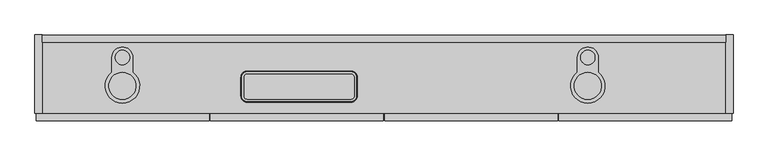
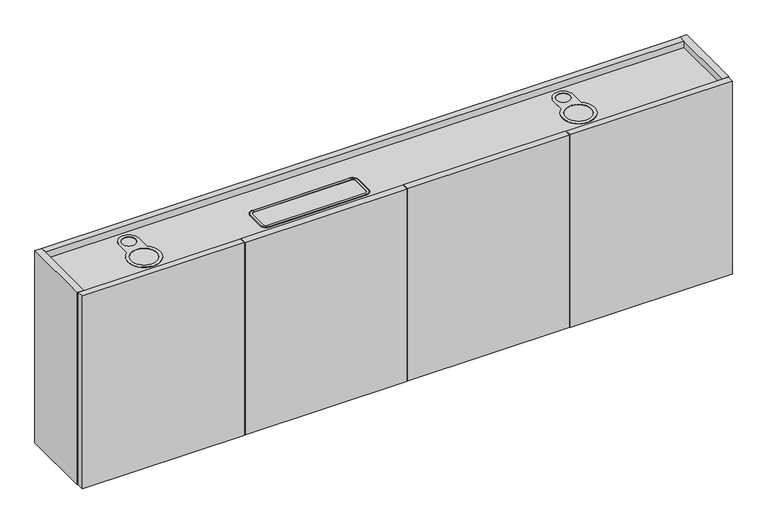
"""IFC4 building model written with IfcOpenShell, lengths in millimetres: furniture geometry, Geiger_GeigerOneCasegoods_UtilityCabinetForUseWithLDeskAccepts2Legs : Vertical Veneer 72Wx 8.875Dx 22.5H."""

from ifc_helpers import new_model, si_unit, point, frame, origin, place, context, project, spatial, polyline, circle_curve, ellipse_curve, trimmed, outline, extrude, faceted_brep, source, transform, mapped, element, save
from ifc_brep_helpers import plane_surface, cylinder_surface, revolved_surface, advanced_brep


def furniture_2dc1d840(model_context):
    return source(origin(), model_context, "Body", "SolidModel", [
        faceted_brep([(1809.8, -19.5, 584.2), (1809.8, -19.5, 29.0), (1809.8, -0.5, 29.0), (1809.8, -0.5, 584.2), (1809.8, -204.925, 156.0), (1809.8, -204.925, 29.0), (1809.8, -185.925, 29.0), (1809.8, -185.925, 156.0), (19.0, -19.5, 584.2), (19.0, -0.5, 584.2), (19.0, -0.5, 29.0), (19.0, -19.5, 29.0), (19.0, -204.925, 156.0), (19.0, -185.925, 156.0), (19.0, -185.925, 29.0), (19.0, -204.925, 29.0), (980.7658, -19.5, 29.0), (980.7658, -19.5, 546.2), (999.7658, -19.5, 546.2), (999.7658, -19.5, 29.0), (980.7658, -185.925, 29.0), (980.7658, -204.5, 29.0), (999.7658, -204.5, 29.0), (999.7658, -185.925, 29.0), (999.7658, -185.925, 156.0), (980.7658, -185.925, 156.0), (999.7658, -204.5, 156.0), (980.7658, -204.5, 156.0), (980.7658, -204.5, 546.2), (980.7658, -19.5, 12.7), (980.7658, -204.5, 12.7), (999.7658, -204.5, 12.7), (999.7658, -19.5, 12.7), (999.7658, -204.5, 546.2)], [[[0, 1, 2, 3]], [[4, 5, 6, 7]], [[8, 9, 10, 11]], [[12, 13, 14, 15]], [[1, 0, 8, 11, 16, 17, 18, 19]], [[2, 1, 19, 16, 11, 10]], [[3, 2, 10, 9]], [[0, 3, 9, 8]], [[5, 4, 12, 15]], [[6, 5, 15, 14, 20, 21, 22, 23]], [[7, 6, 23, 24]], [[14, 13, 25, 20]], [[4, 7, 24, 26, 27, 25, 13, 12]], [[28, 17, 16, 29, 30, 21, 20, 25, 27]], [[31, 32, 19, 18, 33, 26, 24, 23, 22]], [[30, 31, 22, 21]], [[33, 28, 27, 26]], [[17, 28, 33, 18]], [[32, 29, 16, 19]], [[30, 29, 32, 31]]]),
        extrude(outline(polyline([(1809.8, -19.5), (1809.8, -205.425), (19.0, -205.425), (19.0, -19.5), (1809.8, -19.5)])), frame((0.0, 0.0, 546.2), z_axis=(0.0, 0.0, 1.0), x_axis=(1.0, 0.0, 0.0)), (0.0, 0.0, 1.0), 19.0),
        extrude(outline(polyline([(456.7, -225.425), (3.0, -225.425), (3.0, -206.425), (456.7, -206.425), (456.7, -225.425)])), frame((0.0, 0.0, 12.7), z_axis=(0.0, 0.0, 1.0), x_axis=(1.0, 0.0, 0.0)), (0.0, 0.0, 1.0), 571.5),
        extrude(outline(polyline([(1825.8, -225.425), (1372.1, -225.425), (1372.1, -206.425), (1825.8, -206.425), (1825.8, -225.425)])), frame((0.0, 0.0, 12.7), z_axis=(0.0, 0.0, 1.0), x_axis=(1.0, 0.0, 0.0)), (0.0, 0.0, 1.0), 571.5),
        extrude(outline(polyline([(912.9, -225.425), (459.7, -225.425), (459.7, -206.425), (912.9, -206.425), (912.9, -225.425)])), frame((0.0, 0.0, 12.7), z_axis=(0.0, 0.0, 1.0), x_axis=(1.0, 0.0, 0.0)), (0.0, 0.0, 1.0), 571.5),
        extrude(outline(polyline([(1369.1, -225.425), (915.9, -225.425), (915.9, -206.425), (1369.1, -206.425), (1369.1, -225.425)])), frame((0.0, 0.0, 12.7), z_axis=(0.0, 0.0, 1.0), x_axis=(1.0, 0.0, 0.0)), (0.0, 0.0, 1.0), 571.5),
        extrude(outline(polyline([(19.0, -205.425), (0.0, -205.425), (0.0, 0.0), (19.0, 0.0), (19.0, -205.425)])), frame((0.0, 0.0, 12.7), z_axis=(0.0, 0.0, 1.0), x_axis=(1.0, 0.0, 0.0)), (0.0, 0.0, 1.0), 571.5),
        extrude(outline(polyline([(1828.8, -205.425), (1809.8, -205.425), (1809.8, 0.0), (1828.8, 0.0), (1828.8, -205.425)])), frame((0.0, 0.0, 12.7), z_axis=(0.0, 0.0, 1.0), x_axis=(1.0, 0.0, 0.0)), (0.0, 0.0, 1.0), 571.5),
        advanced_brep(
        [(540.6933563, -110.825, 566.7), (555.873, -95.6453563, 566.7), (555.873, -94.4172964, 565.2), (539.4652964, -110.825, 565.2), (539.4652964, -160.025, 565.2), (540.6933563, -160.025, 566.7), (555.873, -176.4327036, 565.2), (555.873, -175.2046437, 566.7), (828.073, -176.4327036, 565.2), (828.073, -175.2046437, 566.7), (844.4807036, -160.025, 565.2), (843.2526437, -160.025, 566.7), (844.4807036, -110.825, 565.2), (843.2526437, -110.825, 566.7), (828.073, -94.4172964, 565.2), (828.073, -95.6453563, 566.7), (555.873, -102.925, 566.7), (828.073, -102.925, 566.7), (835.973, -110.825, 566.7), (835.973, -160.025, 566.7), (828.073, -167.925, 566.7), (555.873, -167.925, 566.7), (547.973, -160.025, 566.7), (547.973, -110.825, 566.7), (547.973, -110.825, 566.001635), (555.873, -102.925, 566.001635), (547.973, -160.025, 566.001635), (555.873, -167.925, 566.001635), (828.073, -167.925, 566.001635), (835.973, -160.025, 566.001635), (835.973, -110.825, 566.001635), (828.073, -102.925, 566.001635)],
        [
            (0, 1, circle_curve(frame((555.873, -110.825, 566.7), z_axis=(0.0, 0.0, -1.0), x_axis=(0.0, 1.0, 0.0)), 15.1796437)),
            (1, 2, circle_curve(frame((555.873, -95.6453563, 565.4472896), z_axis=(-1.0, 0.0, 0.0), x_axis=(0.0, -1.0, 0.0)), 1.2527104)),
            (2, 3, circle_curve(frame((555.873, -110.825, 565.2), z_axis=(0.0, 0.0, 1.0), x_axis=(0.0, 1.0, 0.0)), 16.4077036)),
            (3, 0, circle_curve(frame((540.6933563, -110.825, 565.4472896), z_axis=(0.0, 1.0, 0.0), x_axis=(1.0, 0.0, 0.0)), 1.2527104)),
            (3, 4),
            (4, 5, circle_curve(frame((540.6933563, -160.025, 565.4472896), z_axis=(0.0, 1.0, 0.0), x_axis=(1.0, 0.0, 0.0)), 1.2527104)),
            (5, 0),
            (4, 6, circle_curve(frame((555.873, -160.025, 565.2), z_axis=(0.0, 0.0, 1.0), x_axis=(-1.0, 0.0, 0.0)), 16.4077036)),
            (6, 7, circle_curve(frame((555.873, -175.2046437, 565.4472896), z_axis=(-1.0, 0.0, 0.0), x_axis=(0.0, 1.0, 0.0)), 1.2527104)),
            (7, 5, circle_curve(frame((555.873, -160.025, 566.7), z_axis=(0.0, 0.0, -1.0), x_axis=(-1.0, 0.0, 0.0)), 15.1796437)),
            (6, 8),
            (8, 9, circle_curve(frame((828.073, -175.2046437, 565.4472896), z_axis=(-1.0, 0.0, 0.0), x_axis=(0.0, 1.0, 0.0)), 1.2527104)),
            (9, 7),
            (8, 10, circle_curve(frame((828.073, -160.025, 565.2), z_axis=(0.0, 0.0, 1.0), x_axis=(0.0, -1.0, 0.0)), 16.4077036)),
            (10, 11, circle_curve(frame((843.2526437, -160.025, 565.4472896), z_axis=(0.0, -1.0, 0.0), x_axis=(-1.0, 0.0, 0.0)), 1.2527104)),
            (11, 9, circle_curve(frame((828.073, -160.025, 566.7), z_axis=(0.0, 0.0, -1.0), x_axis=(0.0, -1.0, 0.0)), 15.1796437)),
            (10, 12),
            (12, 13, circle_curve(frame((843.2526437, -110.825, 565.4472896), z_axis=(0.0, -1.0, 0.0), x_axis=(-1.0, 0.0, 0.0)), 1.2527104)),
            (13, 11),
            (12, 14, circle_curve(frame((828.073, -110.825, 565.2), z_axis=(0.0, 0.0, 1.0), x_axis=(1.0, 0.0, 0.0)), 16.4077036)),
            (14, 15, circle_curve(frame((828.073, -95.6453563, 565.4472896), z_axis=(1.0, 0.0, 0.0), x_axis=(0.0, -1.0, 0.0)), 1.2527104)),
            (15, 13, circle_curve(frame((828.073, -110.825, 566.7), z_axis=(0.0, 0.0, -1.0), x_axis=(1.0, 0.0, 0.0)), 15.1796437)),
            (1, 15),
            (14, 2),
            (16, 17),
            (17, 18, circle_curve(frame((828.073, -110.825, 566.7), z_axis=(0.0, 0.0, -1.0), x_axis=(1.0, 0.0, 0.0)), 7.9)),
            (18, 19),
            (19, 20, circle_curve(frame((828.073, -160.025, 566.7), z_axis=(0.0, 0.0, -1.0), x_axis=(0.0, -1.0, 0.0)), 7.9)),
            (20, 21),
            (21, 22, circle_curve(frame((555.873, -160.025, 566.7), z_axis=(0.0, 0.0, -1.0), x_axis=(-1.0, 0.0, 0.0)), 7.9)),
            (22, 23),
            (23, 16, circle_curve(frame((555.873, -110.825, 566.7), z_axis=(0.0, 0.0, -1.0), x_axis=(0.0, 1.0, 0.0)), 7.9)),
            (23, 24),
            (24, 25, circle_curve(frame((555.873, -110.825, 566.001635), z_axis=(0.0, 0.0, -1.0), x_axis=(0.0, 1.0, 0.0)), 7.9)),
            (25, 16),
            (22, 26),
            (26, 24),
            (21, 27),
            (27, 26, circle_curve(frame((555.873, -160.025, 566.001635), z_axis=(0.0, 0.0, -1.0), x_axis=(-1.0, 0.0, 0.0)), 7.9)),
            (20, 28),
            (28, 27),
            (19, 29),
            (29, 28, circle_curve(frame((828.073, -160.025, 566.001635), z_axis=(0.0, 0.0, -1.0), x_axis=(0.0, -1.0, 0.0)), 7.9)),
            (18, 30),
            (30, 29),
            (17, 31),
            (31, 30, circle_curve(frame((828.073, -110.825, 566.001635), z_axis=(0.0, 0.0, -1.0), x_axis=(1.0, 0.0, 0.0)), 7.9)),
            (25, 31),
        ],
        [
            revolved_surface(trimmed(ellipse_curve(frame((555.873, -95.6453563, 565.4472896), z_axis=(1.0, 0.0, 0.0), x_axis=(0.0, -1.0, 0.0)), 1.2527104, 1.2527104), [point((555.873, -94.4172964, 565.2))], [point((555.873, -95.6453563, 566.7))], True, "CARTESIAN"), (555.873, -110.825, 565.2), (0.0, 0.0, 1.0)),
            cylinder_surface(frame((540.6933563, -110.825, 565.4472896), z_axis=(0.0, 1.0, 0.0), x_axis=(1.0, 0.0, 0.0)), 1.2527104),
            revolved_surface(trimmed(ellipse_curve(frame((540.6933563, -160.025, 565.4472896), z_axis=(0.0, 1.0, 0.0), x_axis=(1.0, 0.0, 0.0)), 1.2527104, 1.2527104), [point((539.4652964, -160.025, 565.2))], [point((540.6933563, -160.025, 566.7))], True, "CARTESIAN"), (555.873, -160.025, 565.2), (0.0, 0.0, 1.0)),
            cylinder_surface(frame((555.873, -175.2046437, 565.4472896), z_axis=(-1.0, 0.0, 0.0), x_axis=(0.0, 1.0, 0.0)), 1.2527104),
            revolved_surface(trimmed(ellipse_curve(frame((828.073, -175.2046437, 565.4472896), z_axis=(-1.0, 0.0, 0.0), x_axis=(0.0, 1.0, 0.0)), 1.2527104, 1.2527104), [point((828.073, -176.4327036, 565.2))], [point((828.073, -175.2046437, 566.7))], True, "CARTESIAN"), (828.073, -160.025, 565.2), (0.0, 0.0, 1.0)),
            cylinder_surface(frame((843.2526437, -160.025, 565.4472896), z_axis=(0.0, -1.0, 0.0), x_axis=(-1.0, 0.0, 0.0)), 1.2527104),
            revolved_surface(trimmed(ellipse_curve(frame((843.2526437, -110.825, 565.4472896), z_axis=(0.0, -1.0, 0.0), x_axis=(-1.0, 0.0, 0.0)), 1.2527104, 1.2527104), [point((844.4807036, -110.825, 565.2))], [point((843.2526437, -110.825, 566.7))], True, "CARTESIAN"), (828.073, -110.825, 565.2), (0.0, 0.0, 1.0)),
            cylinder_surface(frame((828.073, -95.6453563, 565.4472896), z_axis=(1.0, 0.0, 0.0), x_axis=(0.0, -1.0, 0.0)), 1.2527104),
            plane_surface(frame((828.073, -95.6453563, 566.7), z_axis=(0.0, 0.0, 1.0), x_axis=(-1.0, 0.0, 0.0))),
            revolved_surface(polyline([(555.873, -102.925, 566.7), (555.873, -102.925, 566.001635)]), (555.873, -110.825, 565.2), (0.0, 0.0, 1.0)),
            plane_surface(frame((547.973, -110.825, 566.7), z_axis=(1.0, 0.0, 0.0), x_axis=(0.0, -1.0, 0.0))),
            revolved_surface(polyline([(547.9730000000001, -160.025, 566.7), (547.9730000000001, -160.025, 566.001635)]), (555.873, -160.025, 565.2), (0.0, 0.0, 1.0)),
            plane_surface(frame((555.873, -167.925, 566.7), z_axis=(0.0, 1.0, 0.0), x_axis=(1.0, 0.0, 0.0))),
            revolved_surface(polyline([(828.073, -167.925, 566.7), (828.073, -167.925, 566.001635)]), (828.073, -160.025, 565.2), (0.0, 0.0, 1.0)),
            plane_surface(frame((835.973, -160.025, 566.7), z_axis=(-1.0, 0.0, 0.0), x_axis=(0.0, 1.0, 0.0))),
            revolved_surface(polyline([(835.973, -110.825, 566.7), (835.973, -110.825, 566.001635)]), (828.073, -110.825, 565.2), (0.0, 0.0, 1.0)),
            plane_surface(frame((828.073, -102.925, 566.7), z_axis=(0.0, -1.0, 0.0), x_axis=(-1.0, 0.0, 0.0))),
            plane_surface(frame((828.073, -102.925, 565.2), z_axis=(0.0, 0.0, -1.0), x_axis=(-1.0, 0.0, 0.0))),
            plane_surface(frame((555.873, -102.925, 566.001635), z_axis=(0.0, 0.0, 1.0), x_axis=(-1.0, 0.0, 0.0))),
        ],
        [
            (0, [[1, 2, 3, 4]]),
            (1, [[-4, 5, 6, 7]]),
            (2, [[-6, 8, 9, 10]]),
            (3, [[-9, 11, 12, 13]]),
            (4, [[-12, 14, 15, 16]]),
            (5, [[-15, 17, 18, 19]]),
            (6, [[-18, 20, 21, 22]]),
            (7, [[-2, 23, -21, 24]]),
            (8, [[-1, -7, -10, -13, -16, -19, -22, -23], [25, 26, 27, 28, 29, 30, 31, 32]]),
            (9, [[-32, 33, 34, 35]]),
            (10, [[-31, 36, 37, -33]]),
            (11, [[-30, 38, 39, -36]]),
            (12, [[-29, 40, 41, -38]]),
            (13, [[-28, 42, 43, -40]]),
            (14, [[-27, 44, 45, -42]]),
            (15, [[-26, 46, 47, -44]]),
            (16, [[-25, -35, 48, -46]]),
            (17, [[-3, -24, -20, -17, -14, -11, -8, -5]]),
            (18, [[-34, -37, -39, -41, -43, -45, -47, -48]]),
        ],
    ),
        advanced_brep(
        [(256.685, -97.7340661, 565.2), (201.685, -97.7340661, 565.2), (201.685, -59.2643843, 565.2), (256.685, -59.2643843, 565.2), (256.685, -97.7340661, 566.8), (256.685, -59.2643843, 566.8), (201.685, -59.2643843, 566.8), (201.685, -97.7340661, 566.8), (229.185, -78.1957393, 566.8), (229.185, -40.3330294, 566.8), (229.185, -168.9040899, 566.8), (229.185, -98.0446387, 566.8), (229.185, -78.1957393, 566.001635), (229.185, -40.3330294, 566.001635), (229.185, -168.9040899, 566.001635), (229.185, -98.0446387, 566.001635)],
        [
            (0, 1, circle_curve(frame((229.185, -133.4743643, 565.2), z_axis=(0.0, 0.0, -1.0), x_axis=(0.0, 1.0, 0.0)), 45.095664)),
            (1, 2),
            (2, 3, circle_curve(frame((229.185, -59.2643843, 565.2), z_axis=(0.0, 0.0, -1.0), x_axis=(0.0, 1.0, 0.0)), 27.5)),
            (3, 0),
            (4, 5),
            (5, 6, circle_curve(frame((229.185, -59.2643843, 566.8), z_axis=(0.0, 0.0, 1.0), x_axis=(0.0, 1.0, 0.0)), 27.5)),
            (6, 7),
            (7, 4, circle_curve(frame((229.185, -133.4743643, 566.8), z_axis=(0.0, 0.0, 1.0), x_axis=(0.0, 1.0, 0.0)), 45.095664)),
            (8, 9, circle_curve(frame((229.185, -59.2643843, 566.8), z_axis=(0.0, 0.0, -1.0), x_axis=(0.0, 1.0, 0.0)), 18.931355)),
            (9, 8, circle_curve(frame((229.185, -59.2643843, 566.8), z_axis=(0.0, 0.0, -1.0), x_axis=(0.0, 1.0, 0.0)), 18.931355)),
            (10, 11, circle_curve(frame((229.185, -133.4743643, 566.8), z_axis=(0.0, 0.0, -1.0), x_axis=(0.0, 1.0, 0.0)), 35.4297256)),
            (11, 10, circle_curve(frame((229.185, -133.4743643, 566.8), z_axis=(0.0, 0.0, -1.0), x_axis=(0.0, 1.0, 0.0)), 35.4297256)),
            (3, 5),
            (4, 0),
            (2, 6),
            (1, 7),
            (8, 12),
            (12, 13, circle_curve(frame((229.185, -59.2643843, 566.001635), z_axis=(0.0, 0.0, -1.0), x_axis=(0.0, 1.0, 0.0)), 18.931355)),
            (13, 9),
            (13, 12, circle_curve(frame((229.185, -59.2643843, 566.001635), z_axis=(0.0, 0.0, -1.0), x_axis=(0.0, 1.0, 0.0)), 18.931355)),
            (10, 14),
            (14, 15, circle_curve(frame((229.185, -133.4743643, 566.001635), z_axis=(0.0, 0.0, -1.0), x_axis=(0.0, 1.0, 0.0)), 35.4297256)),
            (15, 11),
            (15, 14, circle_curve(frame((229.185, -133.4743643, 566.001635), z_axis=(0.0, 0.0, -1.0), x_axis=(0.0, 1.0, 0.0)), 35.4297256)),
        ],
        [
            plane_surface(frame((229.185, -185.925, 565.2), z_axis=(0.0, 0.0, -1.0), x_axis=(-1.0, 0.0, 0.0))),
            plane_surface(frame((229.185, -185.925, 566.8), z_axis=(0.0, 0.0, 1.0), x_axis=(-1.0, 0.0, 0.0))),
            plane_surface(frame((256.685, -59.2643843, 565.2), z_axis=(1.0, 0.0, 0.0), x_axis=(0.0, 0.0, 1.0))),
            cylinder_surface(frame((229.185, -59.2643843, 565.2), z_axis=(0.0, 0.0, -1.0), x_axis=(0.0, 1.0, 0.0)), 27.5),
            plane_surface(frame((201.685, -97.7340661, 565.2), z_axis=(-1.0, 0.0, 0.0), x_axis=(0.0, 0.0, 1.0))),
            cylinder_surface(frame((229.185, -133.4743643, 565.2), z_axis=(0.0, 0.0, -1.0), x_axis=(0.0, 1.0, 0.0)), 45.095664),
            revolved_surface(polyline([(229.185, -40.33302930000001, 566.8), (229.185, -40.33302930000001, 566.001635)]), (229.185, -59.2643843, 565.2), (0.0, 0.0, 1.0)),
            revolved_surface(polyline([(229.185, -98.0446387, 566.8), (229.185, -98.0446387, 566.001635)]), (229.185, -133.4743643, 565.2), (0.0, 0.0, 1.0)),
            plane_surface(frame((210.253645, -59.2643843, 566.001635), z_axis=(0.0, 0.0, 1.0), x_axis=(0.0, -1.0, 0.0))),
        ],
        [
            (0, [[1, 2, 3, 4]]),
            (1, [[5, 6, 7, 8], [9, 10], [11, 12]]),
            (2, [[-4, 13, -5, 14]]),
            (3, [[-3, 15, -6, -13]]),
            (4, [[-2, 16, -7, -15]]),
            (5, [[-1, -14, -8, -16]]),
            (6, [[-9, 17, 18, 19]]),
            (6, [[-10, -19, 20, -17]]),
            (7, [[-11, 21, 22, 23]]),
            (7, [[-12, -23, 24, -21]]),
            (8, [[-18, -20]]),
            (8, [[-22, -24]]),
        ],
    ),
        advanced_brep(
        [(1420.731, -97.7340661, 565.2), (1420.731, -59.2643843, 565.2), (1475.731, -59.2643843, 565.2), (1475.731, -97.7340661, 565.2), (1420.731, -97.7340661, 566.8), (1475.731, -97.7340661, 566.8), (1475.731, -59.2643843, 566.8), (1420.731, -59.2643843, 566.8), (1448.231, -40.3330294, 566.8), (1448.231, -78.1957393, 566.8), (1448.231, -98.0446387, 566.8), (1448.231, -168.9040899, 566.8), (1448.231, -78.1957393, 566.1909845), (1448.231, -40.3330294, 566.1909845), (1448.231, -168.9040899, 566.1909845), (1448.231, -98.0446387, 566.1909845)],
        [
            (0, 1),
            (1, 2, circle_curve(frame((1448.231, -59.2643843, 565.2), z_axis=(0.0, 0.0, -1.0), x_axis=(0.0, -1.0, 0.0)), 27.5)),
            (2, 3),
            (3, 0, circle_curve(frame((1448.231, -133.4743643, 565.2), z_axis=(0.0, 0.0, -1.0), x_axis=(0.0, -1.0, 0.0)), 45.095664)),
            (4, 5, circle_curve(frame((1448.231, -133.4743643, 566.8), z_axis=(0.0, 0.0, 1.0), x_axis=(0.0, -1.0, 0.0)), 45.095664)),
            (5, 6),
            (6, 7, circle_curve(frame((1448.231, -59.2643843, 566.8), z_axis=(0.0, 0.0, 1.0), x_axis=(0.0, -1.0, 0.0)), 27.5)),
            (7, 4),
            (8, 9, circle_curve(frame((1448.231, -59.2643843, 566.8), z_axis=(0.0, 0.0, -1.0), x_axis=(0.0, -1.0, 0.0)), 18.931355)),
            (9, 8, circle_curve(frame((1448.231, -59.2643843, 566.8), z_axis=(0.0, 0.0, -1.0), x_axis=(0.0, -1.0, 0.0)), 18.931355)),
            (10, 11, circle_curve(frame((1448.231, -133.4743643, 566.8), z_axis=(0.0, 0.0, -1.0), x_axis=(0.0, -1.0, 0.0)), 35.4297256)),
            (11, 10, circle_curve(frame((1448.231, -133.4743643, 566.8), z_axis=(0.0, 0.0, -1.0), x_axis=(0.0, -1.0, 0.0)), 35.4297256)),
            (0, 4),
            (7, 1),
            (6, 2),
            (5, 3),
            (9, 12),
            (12, 13, circle_curve(frame((1448.231, -59.2643843, 566.1909845), z_axis=(0.0, 0.0, -1.0), x_axis=(0.0, -1.0, 0.0)), 18.931355)),
            (13, 8),
            (13, 12, circle_curve(frame((1448.231, -59.2643843, 566.1909845), z_axis=(0.0, 0.0, -1.0), x_axis=(0.0, -1.0, 0.0)), 18.931355)),
            (11, 14),
            (14, 15, circle_curve(frame((1448.231, -133.4743643, 566.1909845), z_axis=(0.0, 0.0, -1.0), x_axis=(0.0, -1.0, 0.0)), 35.4297256)),
            (15, 10),
            (15, 14, circle_curve(frame((1448.231, -133.4743643, 566.1909845), z_axis=(0.0, 0.0, -1.0), x_axis=(0.0, -1.0, 0.0)), 35.4297256)),
        ],
        [
            plane_surface(frame((1448.231, -185.925, 565.2), z_axis=(0.0, 0.0, -1.0), x_axis=(1.0, 0.0, 0.0))),
            plane_surface(frame((1448.231, -185.925, 566.8), z_axis=(0.0, 0.0, 1.0), x_axis=(1.0, 0.0, 0.0))),
            plane_surface(frame((1420.731, -97.7340661, 565.2), z_axis=(-1.0, 0.0, 0.0), x_axis=(0.0, 0.0, 1.0))),
            cylinder_surface(frame((1448.231, -59.2643843, 565.2), z_axis=(0.0, 0.0, -1.0), x_axis=(0.0, -1.0, 0.0)), 27.5),
            plane_surface(frame((1475.731, -59.2643843, 565.2), z_axis=(1.0, 0.0, 0.0), x_axis=(0.0, 0.0, 1.0))),
            cylinder_surface(frame((1448.231, -133.4743643, 565.2), z_axis=(0.0, 0.0, -1.0), x_axis=(0.0, -1.0, 0.0)), 45.095664),
            revolved_surface(polyline([(1448.231, -78.1957393, 566.8), (1448.231, -78.1957393, 566.1909845)]), (1448.231, -59.2643843, 565.2), (0.0, 0.0, 1.0)),
            revolved_surface(polyline([(1448.231, -168.90408989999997, 566.8), (1448.231, -168.90408989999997, 566.1909845)]), (1448.231, -133.4743643, 565.2), (0.0, 0.0, 1.0)),
            plane_surface(frame((1429.299645, -59.2643843, 566.1909845), z_axis=(0.0, 0.0, 1.0), x_axis=(0.0, -1.0, 0.0))),
        ],
        [
            (0, [[1, 2, 3, 4]]),
            (1, [[5, 6, 7, 8], [9, 10], [11, 12]]),
            (2, [[-1, 13, -8, 14]]),
            (3, [[-2, -14, -7, 15]]),
            (4, [[-3, -15, -6, 16]]),
            (5, [[-4, -16, -5, -13]]),
            (6, [[-10, 17, 18, 19]]),
            (6, [[-9, -19, 20, -17]]),
            (7, [[-12, 21, 22, 23]]),
            (7, [[-11, -23, 24, -21]]),
            (8, [[-18, -20]]),
            (8, [[-22, -24]]),
        ],
    ),
    ])


if __name__ == "__main__":
    model = new_model("IFC4")
    model_context = context("Model", 3, world=origin())
    ifc_project = project(units=[si_unit("LENGTHUNIT", "METRE", prefix="MILLI")], contexts=[model_context])
    site = spatial("IfcSite", under=ifc_project)
    building = spatial("IfcBuilding", under=site)
    placement = place(None, origin())
    furniture_shape = furniture_2dc1d840(model_context)
    element("IfcFurniture", 1, ObjectType="Geiger_GeigerOneCasegoods_UtilityCabinetForUseWithLDeskAccepts2Legs : Vertical Veneer 72Wx 8.875Dx 22.5H", at=placement, inside=building, context=model_context, shape_type="MappedRepresentation", body=[
        mapped(furniture_shape, transform((0.0, 0.0, 0.0), x_axis=(1.0, 0.0, 0.0), y_axis=(0.0, 1.0, 0.0), z_axis=(0.0, 0.0, 1.0))),
    ])
    save(model, "model.ifc")
